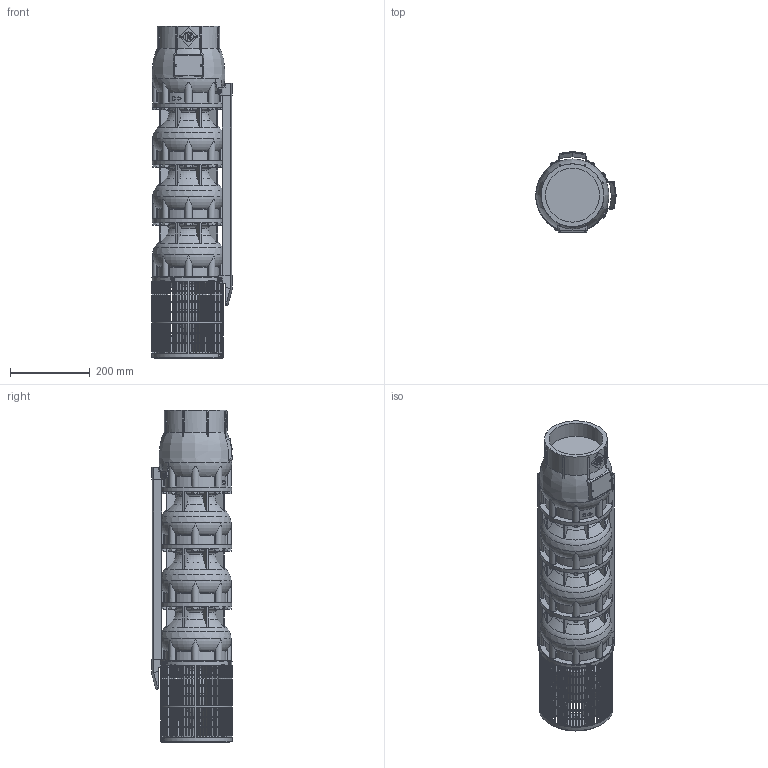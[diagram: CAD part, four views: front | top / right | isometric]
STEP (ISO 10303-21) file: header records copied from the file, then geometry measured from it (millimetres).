
FILE_DESCRIPTION(/* description */ ('Unknown'),/* implementation_level */ '2;1');
FILE_NAME(/* name */ 'VSI134-3_WR_M6-50_SLE',/* time_stamp */ '2023-09-14T15:06:18+02:00',/* author */ ('Unknown'),/* organization */ ('Unknown'),/* preprocessor_version */ 'ST-DEVELOPER v18.102',/* originating_system */ 'Solid Edge',/* authorisation */ 'Unknown');
FILE_SCHEMA (('PROCESS_PLANNING_SCHEMA','AP242_MANAGED_MODEL_BASED_3D_ENGINEERING_MIM_LF { 1 0 10303 442 1 1 4 }','AUTOMOTIVE_DESIGN {1 0 10303 214 3 1 1}'));
Products named in the file (11): VSI134-3_WR_M6-50_SLE; VSI134_testata; VSI134_diffusore; VSI134_supporto_8×6; VSI134_filtro_A; VSI134_filtro_B; VSI134_terminale_top_copricavo_basso; VSI134_terminale_bottom_copricavo_basso; LOW 134-3; M5X8_UNI7687; VSI134_giunto_8×6
Assembly tree (27 placements, depth 2):
  VSI134-3_WR_M6-50_SLE
    VSI134_testata
    VSI134_diffusore  x3
    VSI134_supporto_8×6
    VSI134_filtro_A
    VSI134_filtro_B
    VSI134_terminale_top_copricavo_basso  x2
    VSI134_terminale_bottom_copricavo_basso  x2
    LOW 134-3  x2
    M5X8_UNI7687  x13
    VSI134_giunto_8×6
Bounding box: 201.57 x 202.09 x 832 mm (x, y, z)
Volume: 13508190.2 mm3; surface area: 1312743.2 mm2
Topology: 66 solids, 68 shells, 3150 faces, 8866 edges, 5905 vertices
Faces by surface type: plane 2415, cylinder 444, torus 186, cone 59, bspline 31, sphere 15
Full cylindrical faces by diameter (mm): 2.4 x2, 3 x2, 4.2 x16, 5 x13, 5.5 x8, 15 x4, 26 x1, 44 x1, 59 x1, 74 x1, 76.2 x1, 98 x1, 135.472 x1, 157 x1, 182 x4
Entity records: 83765 total; most frequent: CARTESIAN_POINT 18047, ORIENTED_EDGE 13738, DIRECTION 13176, EDGE_CURVE 6869, VERTEX_POINT 4627, AXIS2_PLACEMENT_3D 4495, LINE 4186, VECTOR 4186
